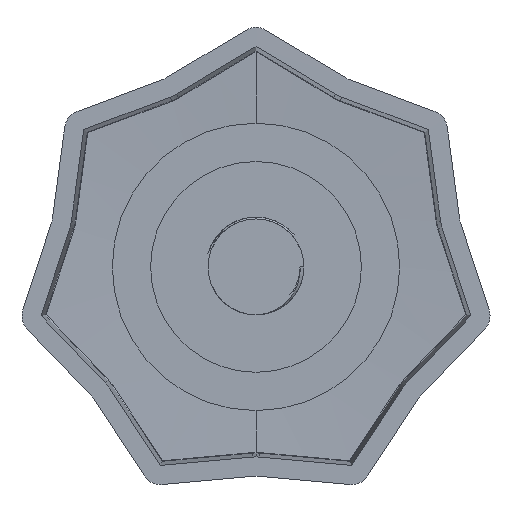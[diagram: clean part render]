
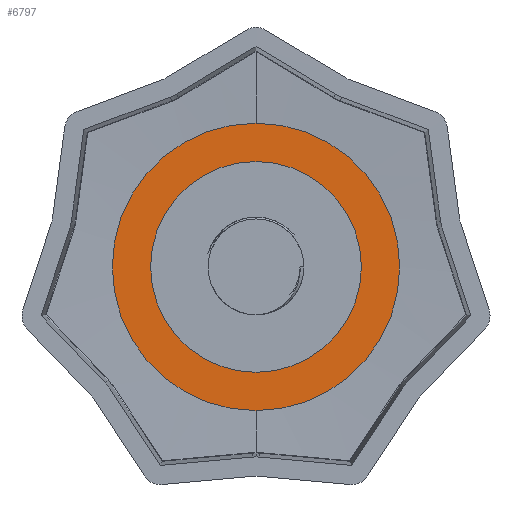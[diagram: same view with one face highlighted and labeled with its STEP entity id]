
A CAD part, front view. The second image highlights one B-rep face of the part: STEP entity #6797.
In plain terms, the highlighted planar face has unit normal (0, -1, 0).
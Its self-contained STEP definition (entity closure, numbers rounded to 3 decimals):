
#71 = EDGE_CURVE ( 'NONE', #8202, #6305, #2733, .T. ) ;
#76 = CARTESIAN_POINT ( 'NONE',  ( 0., -2., 11. ) ) ;
#99 = EDGE_CURVE ( 'NONE', #6305, #8202, #6105, .T. ) ;
#852 = EDGE_CURVE ( 'NONE', #3781, #8389, #7706, .T. ) ;
#918 = CARTESIAN_POINT ( 'NONE',  ( 0., -2., 0. ) ) ;
#1210 = EDGE_LOOP ( 'NONE', ( #2137, #5138 ) ) ;
#1302 = DIRECTION ( 'NONE',  ( 0., 0., 1. ) ) ;
#1486 = AXIS2_PLACEMENT_3D ( 'NONE', #8053, #6727, #4705 ) ;
#1585 = DIRECTION ( 'NONE',  ( 0., 0., 1. ) ) ;
#1648 = CARTESIAN_POINT ( 'NONE',  ( 0., -2., -15. ) ) ;
#2068 = AXIS2_PLACEMENT_3D ( 'NONE', #2810, #7523, #3493 ) ;
#2137 = ORIENTED_EDGE ( 'NONE', *, *, #852, .F. ) ;
#2733 = CIRCLE ( 'NONE', #8375, 15. ) ;
#2810 = CARTESIAN_POINT ( 'NONE',  ( 0., -2., 0. ) ) ;
#3133 = ORIENTED_EDGE ( 'NONE', *, *, #99, .F. ) ;
#3493 = DIRECTION ( 'NONE',  ( 0., 0., 1. ) ) ;
#3781 = VERTEX_POINT ( 'NONE', #76 ) ;
#3806 = CIRCLE ( 'NONE', #2068, 11. ) ;
#4070 = CARTESIAN_POINT ( 'NONE',  ( 0., -2., 0. ) ) ;
#4344 = AXIS2_PLACEMENT_3D ( 'NONE', #4613, #5293, #1302 ) ;
#4613 = CARTESIAN_POINT ( 'NONE',  ( 0., -2., 0. ) ) ;
#4705 = DIRECTION ( 'NONE',  ( 0., 0., 1. ) ) ;
#5138 = ORIENTED_EDGE ( 'NONE', *, *, #8121, .F. ) ;
#5169 = DIRECTION ( 'NONE',  ( 0., 0., 1. ) ) ;
#5293 = DIRECTION ( 'NONE',  ( 0., 1., 0. ) ) ;
#5605 = DIRECTION ( 'NONE',  ( 0., -1., 0. ) ) ;
#6105 = CIRCLE ( 'NONE', #1486, 15. ) ;
#6233 = FACE_OUTER_BOUND ( 'NONE', #6753, .T. ) ;
#6305 = VERTEX_POINT ( 'NONE', #7320 ) ;
#6430 = CARTESIAN_POINT ( 'NONE',  ( 0., -2., -11. ) ) ;
#6727 = DIRECTION ( 'NONE',  ( 0., 1., 0. ) ) ;
#6753 = EDGE_LOOP ( 'NONE', ( #7467, #3133 ) ) ;
#6797 = ADVANCED_FACE ( 'NONE', ( #6233, #7820 ), #7947, .F. ) ;
#7276 = DIRECTION ( 'NONE',  ( 0., 1., 0. ) ) ;
#7320 = CARTESIAN_POINT ( 'NONE',  ( 0., -2., 15. ) ) ;
#7467 = ORIENTED_EDGE ( 'NONE', *, *, #71, .F. ) ;
#7523 = DIRECTION ( 'NONE',  ( 0., -1., 0. ) ) ;
#7706 = CIRCLE ( 'NONE', #8046, 11. ) ;
#7820 = FACE_BOUND ( 'NONE', #1210, .T. ) ;
#7947 = PLANE ( 'NONE',  #4344 ) ;
#8046 = AXIS2_PLACEMENT_3D ( 'NONE', #918, #5605, #1585 ) ;
#8053 = CARTESIAN_POINT ( 'NONE',  ( 0., -2., 0. ) ) ;
#8121 = EDGE_CURVE ( 'NONE', #8389, #3781, #3806, .T. ) ;
#8202 = VERTEX_POINT ( 'NONE', #1648 ) ;
#8375 = AXIS2_PLACEMENT_3D ( 'NONE', #4070, #7276, #5169 ) ;
#8389 = VERTEX_POINT ( 'NONE', #6430 ) ;
